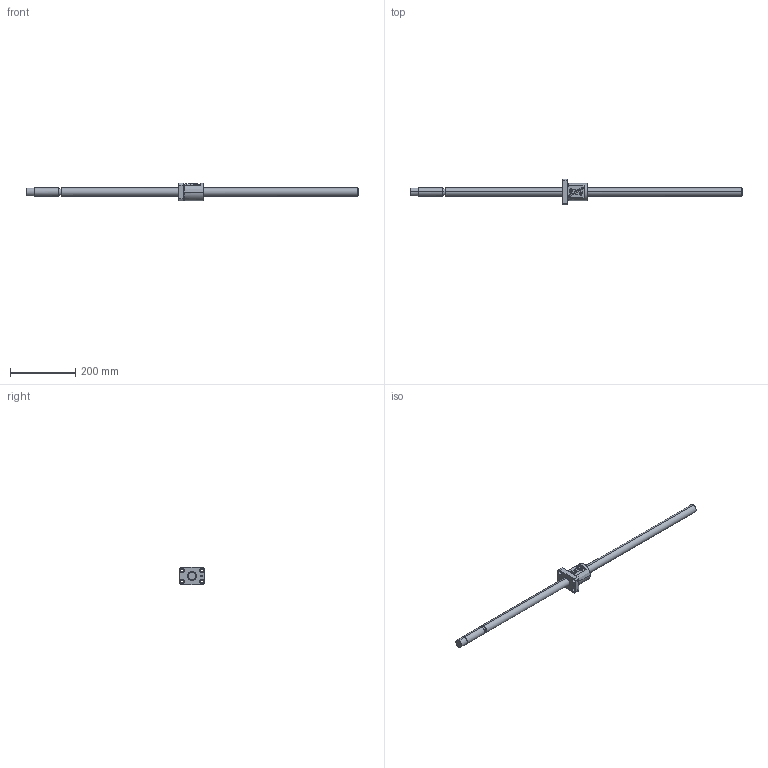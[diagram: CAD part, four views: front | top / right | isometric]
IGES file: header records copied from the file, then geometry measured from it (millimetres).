
Global section: file name: No Iges File Name specified; native system: AutoDesk Inventor R10; preprocessor: AutoDesk Inventor Iges Exporter R10; author: No Author specified; organization: No Organization specified; date: 20101224.142159; units: millimetre
Bounding box: 1020 x 78 x 54 mm (x, y, z)
Surface area: 112096.3 mm2 (no closed solid volume)
Topology: 0 solids, 0 shells, 136 faces, 982 edges, 980 vertices
Faces by surface type: bspline 136
